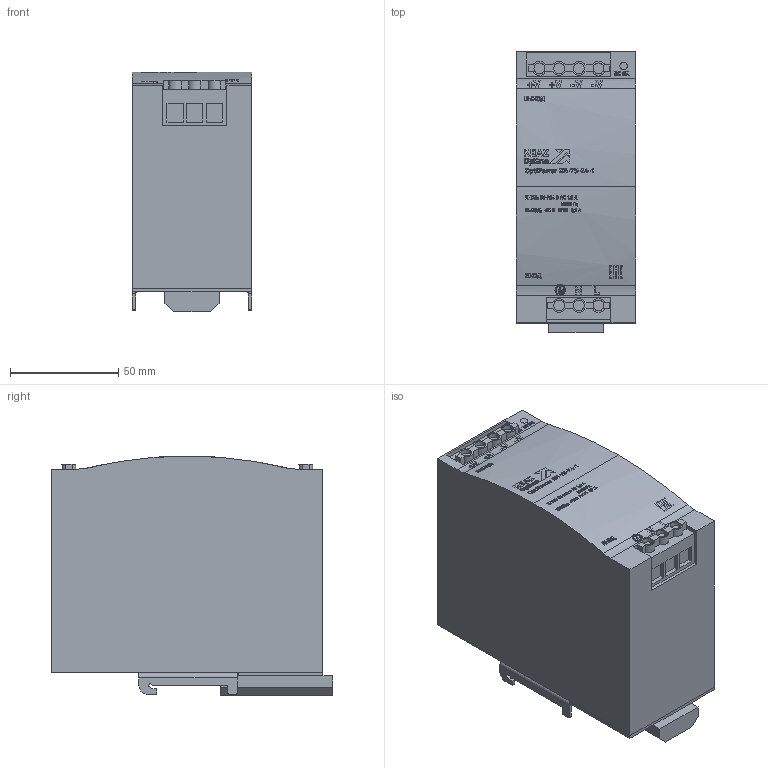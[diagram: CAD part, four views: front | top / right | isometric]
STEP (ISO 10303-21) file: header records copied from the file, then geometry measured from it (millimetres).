
FILE_DESCRIPTION (( 'STEP AP214' ), '1' );
FILE_NAME ('Áëîê ïèòàíèÿ DR-75W-24(KEAZ).STEP', '2019-07-30T07:25:32', ( '' ), ( '' ), 'SwSTEP 2.0', 'SolidWorks 2018', '' );
FILE_SCHEMA (( 'AUTOMOTIVE_DESIGN' ));
Length unit declared in the file: millimetre
Products named in the file (1): Áëîê ïèòàíèÿ DR-75W-24(KEAZ)
Bounding box: 55 x 130 x 110.8 mm (x, y, z)
Volume: 685685.1 mm3; surface area: 62538.1 mm2
Topology: 2 solids, 2 shells, 352 faces, 1845 edges, 1674 vertices
Faces by surface type: cylinder 203, plane 149
Entity records: 30410 total; most frequent: CARTESIAN_POINT 12206, ORIENTED_EDGE 3686, DIRECTION 2128, EDGE_CURVE 1843, VERTEX_POINT 1673, B_SPLINE_CURVE_WITH_KNOTS 768, LINE 726, VECTOR 726
